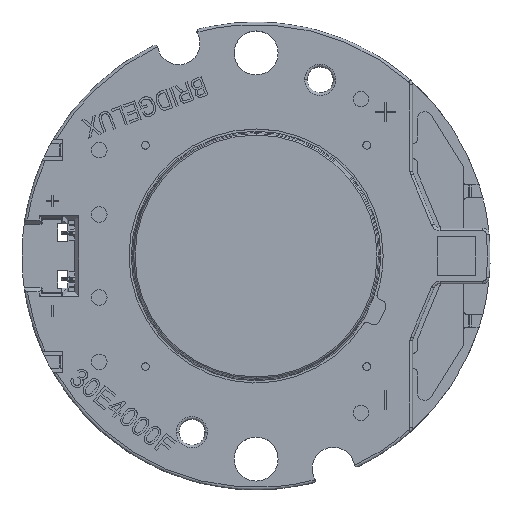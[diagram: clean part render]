
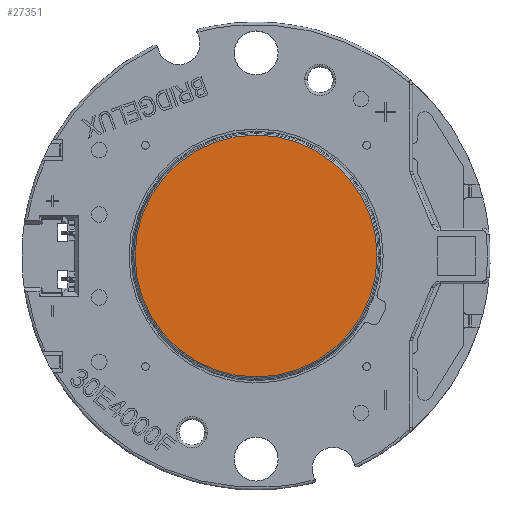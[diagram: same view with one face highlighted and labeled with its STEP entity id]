
A CAD part, top view. The second image highlights one B-rep face of the part: STEP entity #27351.
In plain terms, the highlighted planar face has unit normal (0, 0, 1).
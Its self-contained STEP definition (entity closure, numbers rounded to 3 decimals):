
#1528 = CARTESIAN_POINT ( 'NONE',  ( 0., -9.357, 1.596 ) ) ;
#1834 = VERTEX_POINT ( 'NONE', #1528 ) ;
#3222 = AXIS2_PLACEMENT_3D ( 'NONE', #18971, #45669, #22792 ) ;
#13079 = AXIS2_PLACEMENT_3D ( 'NONE', #13526, #40224, #17368 ) ;
#13526 = CARTESIAN_POINT ( 'NONE',  ( 0., 0., 1.596 ) ) ;
#15678 = VERTEX_POINT ( 'NONE', #48650 ) ;
#17368 = DIRECTION ( 'NONE',  ( 0., 1., 0. ) ) ;
#17549 = DIRECTION ( 'NONE',  ( 0., 0., -1. ) ) ;
#18971 = CARTESIAN_POINT ( 'NONE',  ( -9.357, 0., 1.596 ) ) ;
#21235 = EDGE_CURVE ( 'NONE', #1834, #15678, #46414, .T. ) ;
#22617 = PLANE ( 'NONE',  #3222 ) ;
#22792 = DIRECTION ( 'NONE',  ( 0., 1., 0. ) ) ;
#23415 = AXIS2_PLACEMENT_3D ( 'NONE', #40401, #17549, #44236 ) ;
#25597 = FACE_OUTER_BOUND ( 'NONE', #39597, .T. ) ;
#27351 = ADVANCED_FACE ( 'NONE', ( #25597 ), #22617, .F. ) ;
#28946 = ORIENTED_EDGE ( 'NONE', *, *, #21235, .F. ) ;
#39597 = EDGE_LOOP ( 'NONE', ( #47133, #28946 ) ) ;
#40224 = DIRECTION ( 'NONE',  ( 0., 0., -1. ) ) ;
#40401 = CARTESIAN_POINT ( 'NONE',  ( 0., 0., 1.596 ) ) ;
#41909 = CIRCLE ( 'NONE', #23415, 9.357 ) ;
#42602 = EDGE_CURVE ( 'NONE', #15678, #1834, #41909, .T. ) ;
#44236 = DIRECTION ( 'NONE',  ( 0., 1., 0. ) ) ;
#45669 = DIRECTION ( 'NONE',  ( 0., 0., -1. ) ) ;
#46414 = CIRCLE ( 'NONE', #13079, 9.357 ) ;
#47133 = ORIENTED_EDGE ( 'NONE', *, *, #42602, .F. ) ;
#48650 = CARTESIAN_POINT ( 'NONE',  ( 0., 9.357, 1.596 ) ) ;
